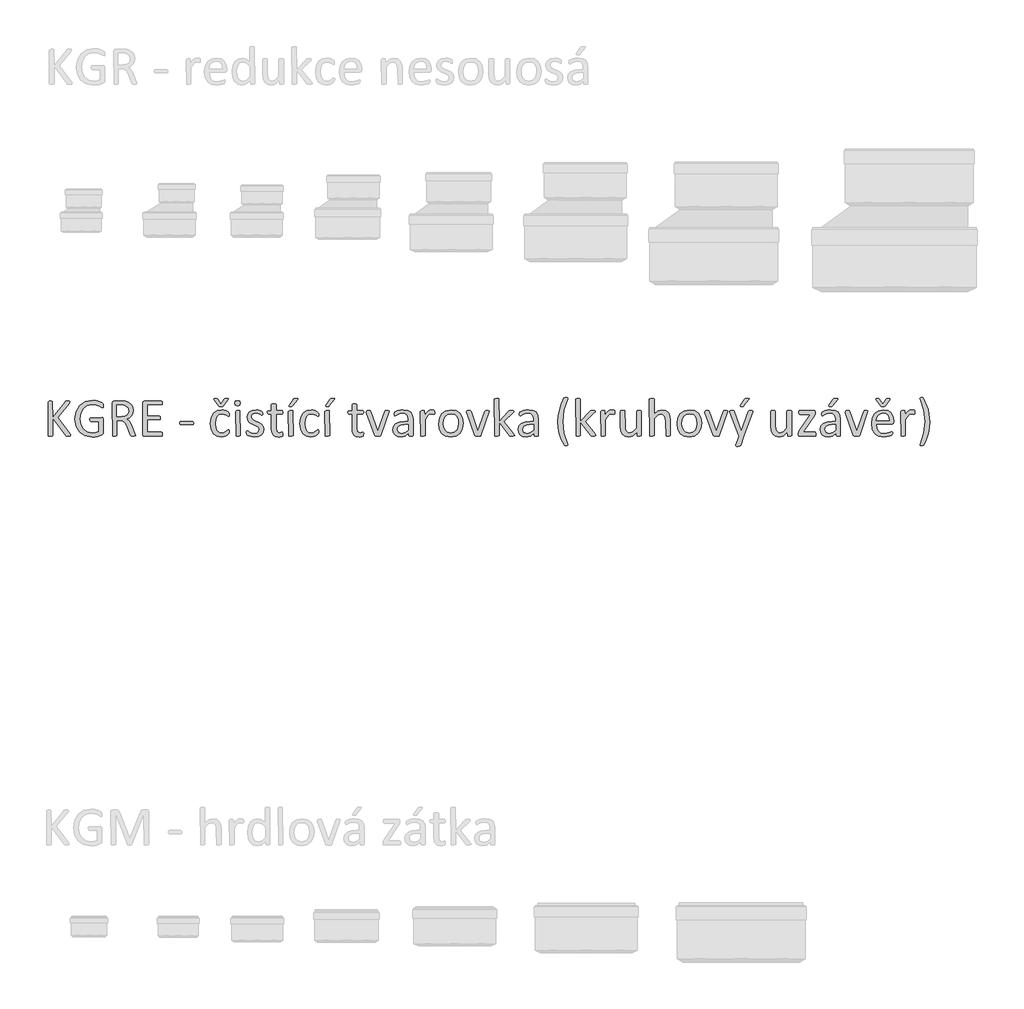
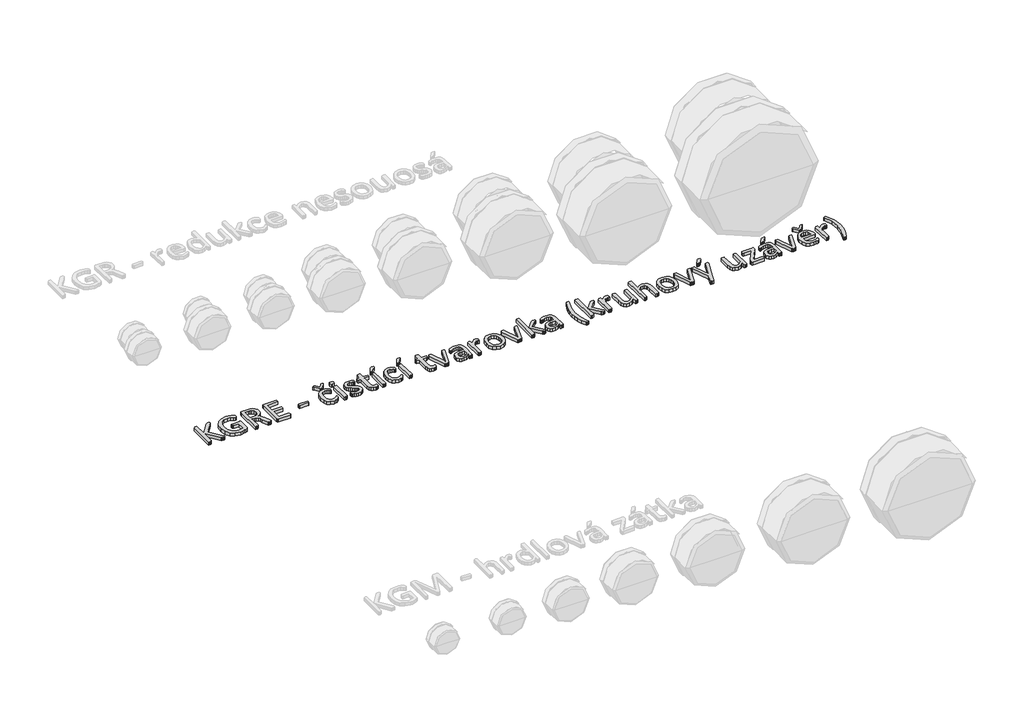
# One storey, part 7 of 11: 1 proxy.
"""IFC4 building model written with IfcOpenShell, lengths in millimetres."""

from ifc_helpers import new_model, si_unit, origin, origin_with_axes, place, context, project, spatial, polyline, outline, extrude, element, save

model = new_model("IFC4")

# Units and contexts
model_context = context("Model", 3, world=origin())
ifc_project = project(units=[si_unit("LENGTHUNIT", "METRE", prefix="MILLI")], contexts=[model_context])

# Site, building, storey
site = spatial("IfcSite", under=ifc_project)
building = spatial("IfcBuilding", under=site)
storey = spatial("IfcBuildingStorey", under=building, Name="Podlaží 1", Elevation=0.0)

# Proxy
placement = place(None, origin())
element("IfcBuildingElementProxy", 1, Name="120mm Arial", ObjectType="120mm Arial", at=placement, inside=storey, context=model_context, shape_type="SweptSolid", body=[
    extrude(outline(polyline([(-20472.3940185, 7816.0800864), (-20473.8234835, 7813.0583059), (-20476.3386182, 7812.4611876), (-20480.4098794, 7812.2259591), (-20485.6934717, 7812.4973765), (-20488.7514412, 7813.5106682), (-20490.4342292, 7815.1934562), (-20534.5486061, 7874.8329091), (-20534.5486061, 7815.1934562), (-20536.2494886, 7813.0221169), (-20538.7465288, 7812.4611876), (-20542.6549395, 7812.2259591), (-20546.5271613, 7812.4611876), (-20549.0603905, 7813.0221169), (-20550.3812885, 7813.9449361), (-20550.3812885, 7929.6954156), (-20546.5271613, 7932.4276842), (-20542.6549395, 7932.6629127), (-20538.7465288, 7932.4276842), (-20536.2494886, 7931.8667549), (-20534.5486061, 7876.6785475), (-20492.0989227, 7929.6954156), (-20490.7780246, 7931.0886917), (-20488.9866697, 7931.9753219), (-20486.399157, 7932.4819677), (-20482.4364628, 7932.6629127), (-20478.564241, 7932.4276842), (-20476.1938622, 7931.8305659), (-20475.2529486, 7927.3069424), (-20477.5509493, 7923.9775554), (-20517.3226476, 7876.6785475), (-20474.4748853, 7820.0789696), (-20472.3940185, 7816.0800864)])), origin_with_axes(), (0.0, 0.0, 1.0), 15.0),
    extrude(outline(polyline([(-20360.8414616, 7916.8845137), (-20361.0224065, 7913.6094102), (-20361.5833359, 7911.2390315), (-20362.5242496, 7909.9000389), (-20367.4278575, 7911.3114095), (-20374.4123323, 7915.2921982), (-20384.8709499, 7919.2729869), (-20399.3103563, 7921.0824364), (-20417.1696221, 7917.409254), (-20430.5595478, 7907.2401483), (-20438.9734876, 7891.8055447), (-20441.9047957, 7872.4082469), (-20438.7020702, 7851.6719565), (-20429.8176736, 7836.4182979), (-20416.2648974, 7827.0091609), (-20399.0208444, 7823.8064354), (-20387.693691, 7825.1273335), (-20377.0541284, 7829.0538388), (-20377.0541284, 7863.1800549), (-20404.0873028, 7863.1800549), (-20406.403398, 7864.8628428), (-20407.1633668, 7870.0921516), (-20406.9824219, 7873.2767826), (-20406.3853036, 7875.4481219), (-20366.4145658, 7877.0766264), (-20364.406077, 7876.7147365), (-20362.578533, 7875.6109724), (-20361.293824, 7873.5662945), (-20360.8414616, 7870.5987975), (-20360.8414616, 7825.0006721), (-20361.6738083, 7820.8208439), (-20365.2022347, 7817.7266854), (-20372.1505205, 7814.8134718), (-20380.9444447, 7812.1354867), (-20390.1183533, 7810.4707932), (-20399.2741673, 7809.9098639), (-20424.1179079, 7814.2887315), (-20442.610481, 7826.755838), (-20454.1366738, 7846.1169468), (-20458.1174625, 7871.3225773), (-20453.8290674, 7897.5595939), (-20441.7238508, 7917.590199), (-20422.9598603, 7930.4191954), (-20398.7313325, 7934.9790079), (-20385.8842416, 7933.8028658), (-20375.20849, 7931.0525027), (-20367.3554795, 7927.6145488), (-20362.9766119, 7924.5746737), (-20361.3119185, 7921.7157436), (-20360.8414616, 7916.8845137)])), origin_with_axes(), (0.0, 0.0, 1.0), 15.0),
    extrude(outline(polyline([(-20251.2250156, 7815.1572672), (-20255.2962768, 7812.4069041), (-20259.7656169, 7812.2259591), (-20263.6921221, 7812.4069041), (-20266.1529734, 7813.0040224), (-20267.5824384, 7814.1439755), (-20268.4509741, 7815.9896139), (-20279.4886156, 7843.855135), (-20283.4874988, 7852.5766812), (-20288.3368233, 7859.4344945), (-20294.9413137, 7863.9038346), (-20304.0971277, 7865.4961501), (-20314.5195564, 7865.4961501), (-20314.5195564, 7815.1572672), (-20318.7174791, 7812.4611876), (-20322.6258898, 7812.2259591), (-20326.5343006, 7812.4611876), (-20329.0313408, 7813.0221169), (-20330.7322232, 7926.1850837), (-20328.8684903, 7931.2334476), (-20324.8696071, 7932.6629127), (-20299.7544491, 7932.6629127), (-20292.3357065, 7932.4276842), (-20286.9797362, 7931.9029439), (-20274.8745196, 7928.1031001), (-20266.0444064, 7921.4805152), (-20260.7065306, 7912.2885122), (-20258.9332702, 7900.8889808), (-20260.5074912, 7890.0322843), (-20265.0673037, 7881.5459665), (-20272.2146289, 7875.1767045), (-20281.5513879, 7870.5987975), (-20276.1592287, 7867.323694), (-20271.6536996, 7862.5829365), (-20267.7271944, 7856.2317691), (-20263.9997285, 7848.1254357), (-20253.251599, 7821.888419), (-20251.5869055, 7817.2562285), (-20251.2250156, 7815.1572672)]), holes=[polyline([(-20275.145937, 7899.1519094), (-20278.2400955, 7910.7685746), (-20288.6444297, 7917.6082935), (-20293.783266, 7918.4949237), (-20301.3105756, 7918.7663411), (-20314.5195564, 7918.7663411), (-20314.5195564, 7879.3927217), (-20299.2116143, 7879.3927217), (-20288.4996737, 7880.8764702), (-20280.9723641, 7885.0382039), (-20276.5573075, 7891.3169934), (-20275.145937, 7899.1519094)])]), origin_with_axes(), (0.0, 0.0, 1.0), 15.0),
    extrude(outline(polyline([(-20159.341174, 7819.1380559), (-20159.5221189, 7816.0619919), (-20160.1735207, 7813.8725581), (-20161.2591904, 7812.6059435), (-20220.5367534, 7812.2259591), (-20224.5899201, 7813.6735187), (-20226.5079365, 7818.7399771), (-20226.5079365, 7926.1488947), (-20224.5718256, 7931.2153531), (-20220.4643755, 7932.6629127), (-20162.561994, 7932.6629127), (-20160.1916152, 7931.0163137), (-20159.5764024, 7928.8268799), (-20159.341174, 7925.5698709), (-20159.5764024, 7922.5119014), (-20160.1916152, 7920.3586566), (-20210.2952697, 7918.7663411), (-20210.2952697, 7881.7088169), (-20169.4740907, 7881.7088169), (-20167.0856175, 7880.0079345), (-20166.4704047, 7877.8185007), (-20166.2894598, 7874.5072082), (-20166.4704047, 7871.4130497), (-20167.0856175, 7869.3140884), (-20210.2952697, 7867.8122454), (-20210.2952697, 7826.1225307), (-20162.5981829, 7826.1225307), (-20160.1735207, 7824.5302152), (-20159.5221189, 7822.3769704), (-20159.341174, 7819.1380559)])), origin_with_axes(), (0.0, 0.0, 1.0), 15.0),
    extrude(outline(polyline([(-20052.800792, 7857.4260057), (-20053.6512333, 7852.8661931), (-20056.130179, 7851.5995786), (-20095.7209323, 7851.5995786), (-20098.272256, 7852.9023821), (-20099.1226972, 7857.4260057), (-20098.272256, 7861.9134403), (-20095.7209323, 7863.1800549), (-20056.130179, 7863.1800549), (-20053.0360204, 7860.1401798), (-20052.800792, 7857.4260057)])), origin_with_axes(), (0.0, 0.0, 1.0), 15.0),
    extrude(outline(polyline([(-19947.4184577, 7939.2493085), (-19946.2604101, 7940.5340176), (-19942.9672121, 7941.8006322), (-19940.072093, 7941.9272937), (-19936.2903437, 7941.6196873), (-19934.4808943, 7940.7330571), (-19935.8379814, 7936.9332133), (-19950.7840336, 7916.4502458), (-19951.9601757, 7915.2921982), (-19953.5524912, 7914.6227019), (-19955.8685865, 7914.260812), (-19959.2160679, 7914.1341506), (-19962.3645099, 7914.260812), (-19964.5901327, 7914.6588909), (-19966.1281647, 7915.3826707), (-19982.1598866, 7936.9332133), (-19983.5531626, 7939.1588361), (-19981.6532408, 7941.6196873), (-19977.889586, 7941.9272937), (-19974.777333, 7941.8006322), (-19972.8955056, 7941.3482699), (-19970.5794103, 7939.2493085), (-19958.998934, 7923.0728307), (-19947.4184577, 7939.2493085)])), origin_with_axes(), (0.0, 0.0, 1.0), 15.0),
    extrude(outline(polyline([(-19930.0477432, 7828.8728938), (-19930.1382157, 7826.3396646), (-19930.4639166, 7824.5302152), (-19932.454311, 7820.8932219), (-19936.3446272, 7817.3647955), (-19942.5148498, 7813.6192352), (-19949.9516869, 7810.94125), (-19958.2751542, 7809.9098639), (-19973.9811752, 7812.9135499), (-19985.43499, 7821.6893796), (-19992.4737483, 7835.8392741), (-19994.8984105, 7855.1822884), (-19991.9309135, 7876.6242641), (-19983.8064856, 7891.2988989), (-19971.6650799, 7899.7852167), (-19956.5380828, 7902.5536743), (-19948.9022062, 7901.739422), (-19942.0986764, 7899.6042717), (-19936.5617612, 7896.5643967), (-19933.0514293, 7893.6149941), (-19931.5495863, 7891.6788832), (-19930.8619955, 7890.1408512), (-19930.5001056, 7888.2409293), (-19930.4096331, 7885.5810387), (-19931.2238854, 7880.7679032), (-19933.1961852, 7879.3927217), (-19936.3265327, 7880.8402812), (-19940.7958728, 7884.0249122), (-19947.3641742, 7887.2095432), (-19956.4295158, 7888.6571027), (-19965.9517434, 7886.5581414), (-19972.949789, 7880.2612574), (-19977.251755, 7869.9654902), (-19978.6857437, 7855.8698792), (-19977.2019952, 7841.8647407), (-19972.8231276, 7831.8042019), (-19965.7119913, 7825.7787353), (-19956.0676259, 7823.8064354), (-19947.0384733, 7825.6339793), (-19940.3073215, 7829.6509571), (-19935.5122805, 7833.6136513), (-19932.4724055, 7835.3869117), (-19930.1744047, 7831.8222964), (-19930.0477432, 7828.8728938)])), origin_with_axes(), (0.0, 0.0, 1.0), 15.0),
    extrude(outline(polyline([(-19892.9902191, 7925.8231938), (-19894.9806134, 7918.4225457), (-19902.3631671, 7916.4502458), (-19909.5647758, 7918.3682622), (-19911.5189812, 7925.6060599), (-19909.5285868, 7933.006708), (-19902.1460332, 7934.9790079), (-19894.9444245, 7933.0609915), (-19892.9902191, 7925.8231938)])), origin_with_axes(), (0.0, 0.0, 1.0), 15.0),
    extrude(outline(polyline([(-19892.9902191, 7815.0487002), (-19897.1157638, 7812.4069041), (-19901.1327415, 7812.2259591), (-19905.0773412, 7812.4069041), (-19907.5743814, 7812.9497389), (-19909.2028859, 7897.4148379), (-19905.0773412, 7900.0566341), (-19901.1327415, 7900.237579), (-19897.1157638, 7900.0566341), (-19894.673007, 7899.5137992), (-19892.9902191, 7815.0487002)])), origin_with_axes(), (0.0, 0.0, 1.0), 15.0),
    extrude(outline(polyline([(-19811.926885, 7836.9792272), (-19814.3334527, 7825.4530344), (-19821.191266, 7816.9305276), (-19831.7765451, 7811.6831243), (-19845.2931323, 7809.9098639), (-19853.9603951, 7810.7422106), (-19861.3248542, 7812.8592664), (-19866.8436749, 7815.5372516), (-19870.1549674, 7818.0523863), (-19871.6749049, 7820.7122769), (-19872.1453617, 7824.9282941), (-19871.9644168, 7827.6605627), (-19871.49396, 7829.4519176), (-19866.5360685, 7829.3071617), (-19861.6143661, 7826.1225307), (-19854.6841748, 7822.9378997), (-19845.5102663, 7821.4903402), (-19838.4534135, 7822.3769704), (-19832.9707818, 7825.0006721), (-19829.3880719, 7829.4157286), (-19828.1395518, 7835.7488016), (-19829.9309067, 7841.7380792), (-19834.6897587, 7846.0626633), (-19841.3304381, 7849.3920503), (-19848.9301257, 7852.4319253), (-19856.5840967, 7856.0327296), (-19863.2790596, 7860.9544321), (-19868.0379116, 7867.8846233), (-19869.8292665, 7877.5470833), (-19867.9112501, 7887.0466927), (-19862.1572009, 7895.0082702), (-19852.567119, 7900.4909019), (-19839.1048153, 7902.5536743), (-19832.3736634, 7901.9384615), (-19826.2939134, 7900.382335), (-19821.6617229, 7898.3557516), (-19818.7666038, 7896.4377352), (-19817.4638002, 7895.0625537), (-19816.7038315, 7892.2217181), (-19816.5590755, 7889.8151503), (-19816.7038315, 7887.1914487), (-19817.1742883, 7885.3639048), (-19821.5531559, 7885.1286763), (-19825.7691731, 7887.4990551), (-19831.8489231, 7889.8694338), (-19839.8285951, 7890.973198), (-19846.9216368, 7890.0503788), (-19851.9519062, 7887.4266771), (-19854.9194032, 7883.4096994), (-19855.9326949, 7878.37943), (-19854.0146785, 7872.2453965), (-19849.0025036, 7867.8846233), (-19841.9637454, 7864.5190474), (-19833.92979, 7861.4429834), (-19825.841551, 7857.878368), (-19818.7666038, 7853.1014216), (-19813.8087124, 7846.3521752), (-19811.926885, 7836.9792272)])), origin_with_axes(), (0.0, 0.0, 1.0), 15.0),
    extrude(outline(polyline([(-19747.0762177, 7820.5494265), (-19747.4381076, 7816.0258029), (-19748.5418717, 7813.5649517), (-19750.7494, 7812.0812032), (-19754.0968815, 7810.94125), (-19758.0957647, 7810.1993758), (-19762.3117818, 7809.9098639), (-19773.3313288, 7811.6650298), (-19780.8405439, 7816.9667166), (-19785.1108446, 7825.9596802), (-19786.4498371, 7838.8248656), (-19786.4498371, 7888.6571027), (-19797.4512896, 7888.6571027), (-19799.5683454, 7890.0141898), (-19800.3464087, 7894.4111519), (-19800.1292748, 7897.1072315), (-19799.5683454, 7898.9347754), (-19786.4498371, 7900.237579), (-19786.4498371, 7920.3948456), (-19784.8213326, 7922.6023739), (-19782.3242924, 7923.2175867), (-19778.3796927, 7923.3985316), (-19774.362715, 7923.2175867), (-19771.9199583, 7922.6023739), (-19770.6352492, 7921.6071767), (-19770.2371703, 7900.237579), (-19749.9713368, 7900.237579), (-19747.2571626, 7897.1072315), (-19747.0762177, 7894.4111519), (-19747.8723754, 7890.0141898), (-19749.9713368, 7888.6571027), (-19770.2371703, 7888.6571027), (-19770.2371703, 7841.4666618), (-19767.8306026, 7828.2757755), (-19759.1995288, 7823.8064354), (-19755.5987245, 7824.2226088), (-19752.7940779, 7825.0911445), (-19750.6770221, 7825.9777747), (-19749.1028011, 7826.4120426), (-19747.2571626, 7823.4807345), (-19747.0762177, 7820.5494265)])), origin_with_axes(), (0.0, 0.0, 1.0), 15.0),
    extrude(outline(polyline([(-19712.3347888, 7815.0487002), (-19716.4603335, 7812.4069041), (-19720.4773112, 7812.2259591), (-19724.4219109, 7812.4069041), (-19726.9189511, 7812.9497389), (-19728.5474556, 7897.4148379), (-19724.4219109, 7900.0928231), (-19720.4773112, 7900.237579), (-19716.4603335, 7900.0928231), (-19714.0175768, 7899.5499882), (-19712.3347888, 7815.0487002)])), origin_with_axes(), (0.0, 0.0, 1.0), 15.0),
    extrude(outline(polyline([(-19712.3709778, 7938.6340957), (-19711.0319852, 7940.2264112), (-19709.1682523, 7941.2035139), (-19706.4359837, 7941.7463487), (-19702.5275729, 7941.9272937), (-19698.1848943, 7941.6196873), (-19695.8687991, 7940.7330571), (-19696.122122, 7937.801749), (-19713.4204585, 7916.9930807), (-19714.8137345, 7915.5636156), (-19716.2431996, 7914.7131744), (-19718.3421609, 7914.260812), (-19721.5629809, 7914.1341506), (-19724.8923678, 7914.405568), (-19726.6294392, 7915.1293478), (-19726.2313604, 7917.9701833), (-19712.3709778, 7938.6340957)])), origin_with_axes(), (0.0, 0.0, 1.0), 15.0),
    extrude(outline(polyline([(-19624.3231689, 7828.8728938), (-19624.4136414, 7826.3396646), (-19624.7393423, 7824.5302152), (-19626.7297367, 7820.8932219), (-19630.6200529, 7817.3647955), (-19636.7902754, 7813.6192352), (-19644.2271126, 7810.94125), (-19652.5505799, 7809.9098639), (-19668.2566009, 7812.9135499), (-19679.7104157, 7821.6893796), (-19686.749174, 7835.8392741), (-19689.1738362, 7855.1822884), (-19686.2063391, 7876.6242641), (-19678.0819112, 7891.2988989), (-19665.9405056, 7899.7852167), (-19650.8135085, 7902.5536743), (-19643.1776319, 7901.739422), (-19636.3741021, 7899.6042717), (-19630.8371868, 7896.5643967), (-19627.326855, 7893.6149941), (-19625.8250119, 7891.6788832), (-19625.1374212, 7890.1408512), (-19624.7755313, 7888.2409293), (-19624.6850588, 7885.5810387), (-19625.499311, 7880.7679032), (-19627.4716109, 7879.3927217), (-19630.6019584, 7880.8402812), (-19635.0712985, 7884.0249122), (-19641.6395999, 7887.2095432), (-19650.7049415, 7888.6571027), (-19660.2271691, 7886.5581414), (-19667.2252147, 7880.2612574), (-19671.5271807, 7869.9654902), (-19672.9611694, 7855.8698792), (-19671.4774209, 7841.8647407), (-19667.0985533, 7831.8042019), (-19659.987417, 7825.7787353), (-19650.3430516, 7823.8064354), (-19641.313899, 7825.6339793), (-19634.5827471, 7829.6509571), (-19629.7877062, 7833.6136513), (-19626.7478311, 7835.3869117), (-19624.4498304, 7831.8222964), (-19624.3231689, 7828.8728938)])), origin_with_axes(), (0.0, 0.0, 1.0), 15.0),
    extrude(outline(polyline([(-19587.3018337, 7938.6340957), (-19585.9628412, 7940.2264112), (-19584.0991083, 7941.2035139), (-19581.3668396, 7941.7463487), (-19577.4584289, 7941.9272937), (-19573.1157503, 7941.6196873), (-19570.799655, 7940.7330571), (-19571.0529779, 7937.801749), (-19588.3513144, 7916.9930807), (-19589.7445905, 7915.5636156), (-19591.1740555, 7914.7131744), (-19593.2730168, 7914.260812), (-19596.4938368, 7914.1341506), (-19599.8232237, 7914.405568), (-19601.5602952, 7915.1293478), (-19601.1622163, 7917.9701833), (-19587.3018337, 7938.6340957)])), origin_with_axes(), (0.0, 0.0, 1.0), 15.0),
    extrude(outline(polyline([(-19587.2656448, 7815.0487002), (-19591.3911894, 7812.4069041), (-19595.4081672, 7812.2259591), (-19599.3527669, 7812.4069041), (-19601.8498071, 7812.9497389), (-19603.4783116, 7897.4148379), (-19599.3527669, 7900.0928231), (-19595.4081672, 7900.237579), (-19591.3911894, 7900.0928231), (-19588.9484327, 7899.5499882), (-19587.2656448, 7815.0487002)])), origin_with_axes(), (0.0, 0.0, 1.0), 15.0),
    extrude(outline(polyline([(-19471.4608818, 7820.5494265), (-19471.8227716, 7816.0258029), (-19472.9265358, 7813.5649517), (-19475.1340641, 7812.0812032), (-19478.4815455, 7810.94125), (-19482.4804287, 7810.1993758), (-19486.6964459, 7809.9098639), (-19497.7159929, 7811.6650298), (-19505.225208, 7816.9667166), (-19509.4955086, 7825.9596802), (-19510.8345012, 7838.8248656), (-19510.8345012, 7888.6571027), (-19521.8359537, 7888.6571027), (-19523.9530095, 7890.0141898), (-19524.7310727, 7894.4111519), (-19524.5139388, 7897.1072315), (-19523.9530095, 7898.9347754), (-19510.8345012, 7900.237579), (-19510.8345012, 7920.3948456), (-19509.2059967, 7922.6023739), (-19506.7089565, 7923.2175867), (-19502.7643568, 7923.3985316), (-19498.747379, 7923.2175867), (-19496.3046223, 7922.6023739), (-19495.0199132, 7921.6071767), (-19494.6218344, 7900.237579), (-19474.3560008, 7900.237579), (-19471.6418267, 7897.1072315), (-19471.4608818, 7894.4111519), (-19472.2570395, 7890.0141898), (-19474.3560008, 7888.6571027), (-19494.6218344, 7888.6571027), (-19494.6218344, 7841.4666618), (-19492.2152666, 7828.2757755), (-19483.5841929, 7823.8064354), (-19479.9833885, 7824.2226088), (-19477.1787419, 7825.0911445), (-19475.0616861, 7825.9777747), (-19473.4874651, 7826.4120426), (-19471.6418267, 7823.4807345), (-19471.4608818, 7820.5494265)])), origin_with_axes(), (0.0, 0.0, 1.0), 15.0),
    extrude(outline(polyline([(-19384.4173173, 7898.6452635), (-19412.9070985, 7815.5191571), (-19413.8842012, 7813.8725581), (-19415.6936506, 7812.8773609), (-19418.7516201, 7812.3707151), (-19423.4019051, 7812.2259591), (-19428.0160011, 7812.4069041), (-19431.0377817, 7812.9497389), (-19432.8472311, 7813.9630306), (-19433.8605228, 7815.5191571), (-19462.2326897, 7893.7597501), (-19462.829808, 7895.659672), (-19459.2290037, 7900.1471065), (-19455.6462938, 7900.237579), (-19451.3398042, 7900.0928231), (-19448.842764, 7899.5861772), (-19446.7438027, 7897.3062709), (-19423.1847712, 7829.4157286), (-19399.2638498, 7897.3062709), (-19397.29155, 7899.5861772), (-19394.8668877, 7900.0928231), (-19390.8318155, 7900.237579), (-19387.3033891, 7900.1471065), (-19384.4173173, 7898.6452635)])), origin_with_axes(), (0.0, 0.0, 1.0), 15.0),
    extrude(outline(polyline([(-19302.3859278, 7815.0125112), (-19303.1820855, 7813.3297233), (-19305.3534248, 7812.4973765), (-19309.4065915, 7812.2259591), (-19313.5140417, 7812.4973765), (-19315.7396645, 7813.3297233), (-19316.4272553, 7815.0125112), (-19316.4272553, 7823.3359786), (-19328.6229444, 7813.7097077), (-19342.8814058, 7809.9098639), (-19354.8418665, 7811.6288408), (-19363.9433971, 7816.6048267), (-19369.7879187, 7824.6025932), (-19371.8687856, 7835.3869117), (-19368.991761, 7847.6549788), (-19360.7406716, 7856.304147), (-19347.5859743, 7861.4610779), (-19330.0705039, 7863.1800549), (-19318.5985946, 7863.1800549), (-19318.5985946, 7870.0921516), (-19319.6118863, 7879.1393988), (-19322.8688952, 7885.6896057), (-19328.6772279, 7889.6342054), (-19337.4530576, 7890.973198), (-19347.4955019, 7889.5256384), (-19355.2761344, 7886.3410075), (-19360.8673331, 7883.1563765), (-19364.19672, 7881.7088169), (-19367.0556501, 7885.2372433), (-19367.2365951, 7887.897134), (-19366.9108942, 7891.6969777), (-19365.3185787, 7894.3568684), (-19360.9759001, 7897.0710425), (-19353.8828583, 7899.7490277), (-19345.1070286, 7901.7575165), (-19335.4988522, 7902.5536743), (-19320.1185321, 7900.5089964), (-19309.8589539, 7894.5378133), (-19304.1591882, 7884.7848809), (-19302.3859278, 7871.1778213), (-19302.3859278, 7815.0125112)]), holes=[polyline([(-19318.5985946, 7851.5995786), (-19331.4818745, 7851.5995786), (-19342.2300041, 7850.5320034), (-19349.8115971, 7847.3835614), (-19354.2447482, 7842.389481), (-19355.6561188, 7835.6764236), (-19351.6029521, 7825.3263729), (-19340.2396097, 7821.4903402), (-19329.2381572, 7824.5483097), (-19318.5985946, 7833.9031632), (-19318.5985946, 7851.5995786)])]), origin_with_axes(), (0.0, 0.0, 1.0), 15.0),
    extrude(outline(polyline([(-19228.2708795, 7893.2892932), (-19228.3613519, 7889.9960953), (-19228.7232418, 7887.860945), (-19232.2697627, 7886.6486139), (-19234.6039524, 7887.4809606), (-19237.517166, 7888.2771183), (-19241.0094034, 7888.6571027), (-19245.42446, 7887.6619055), (-19249.966178, 7884.4048966), (-19254.9421639, 7878.3975245), (-19260.6962131, 7869.2236159), (-19260.6962131, 7815.0487002), (-19264.8217578, 7812.4069041), (-19268.8387355, 7812.2259591), (-19272.7833352, 7812.4069041), (-19275.2803754, 7812.9497389), (-19276.9088799, 7897.4148379), (-19273.1814141, 7900.0928231), (-19269.5263263, 7900.237579), (-19265.9436164, 7900.0928231), (-19263.7360881, 7899.5499882), (-19262.2523396, 7885.4000938), (-19255.9916446, 7893.976884), (-19250.4366349, 7899.2061928), (-19245.2616095, 7901.8298945), (-19240.0684897, 7902.5536743), (-19237.4266935, 7902.4270128), (-19234.3144405, 7901.9384615), (-19231.3831325, 7901.1242092), (-19229.5374941, 7900.237579), (-19228.3070684, 7896.5463022), (-19228.2708795, 7893.2892932)])), origin_with_axes(), (0.0, 0.0, 1.0), 15.0),
    extrude(outline(polyline([(-19130.9948785, 7857.1364938), (-19133.6728637, 7838.1553693), (-19141.6887246, 7823.2093171), (-19155.0424614, 7813.4201958), (-19173.6255069, 7809.9098639), (-19191.5390562, 7813.0040224), (-19204.2775801, 7821.996986), (-19211.8772677, 7836.3278254), (-19214.3743079, 7855.4356113), (-19211.7325117, 7874.4167358), (-19203.7709343, 7889.3446935), (-19190.471481, 7899.0795314), (-19171.8522465, 7902.5536743), (-19153.9206027, 7899.4595158), (-19141.1820788, 7890.4665521), (-19133.5462022, 7876.1357127), (-19130.9948785, 7857.1364938)]), holes=[polyline([(-19147.2075454, 7856.0508241), (-19148.4560655, 7868.6264976), (-19152.5635156, 7879.0127373), (-19160.2898647, 7886.06959), (-19172.4674593, 7888.6571027), (-19184.0298411, 7886.286724), (-19191.9914186, 7879.5917611), (-19196.6417036, 7869.3502774), (-19198.1616411, 7856.412714), (-19196.913121, 7843.7646626), (-19192.7694818, 7833.4146119), (-19184.9888493, 7826.3939481), (-19172.8293492, 7823.8064354), (-19161.3031564, 7826.1768142), (-19153.2872954, 7832.8174936), (-19148.6731994, 7843.0227883), (-19147.2075454, 7856.0508241)])]), origin_with_axes(), (0.0, 0.0, 1.0), 15.0),
    extrude(outline(polyline([(-19041.6352188, 7898.6452635), (-19070.125, 7815.5191571), (-19071.1021027, 7813.8725581), (-19072.9115521, 7812.8773609), (-19075.9695216, 7812.3707151), (-19080.6198066, 7812.2259591), (-19085.2339027, 7812.4069041), (-19088.2556832, 7812.9497389), (-19090.0651326, 7813.9630306), (-19091.0784243, 7815.5191571), (-19119.4505912, 7893.7597501), (-19120.0477095, 7895.659672), (-19116.4469052, 7900.1471065), (-19112.8641953, 7900.237579), (-19108.5577057, 7900.0928231), (-19106.0606655, 7899.5861772), (-19103.9617042, 7897.3062709), (-19080.4026727, 7829.4157286), (-19056.4817513, 7897.3062709), (-19054.5094515, 7899.5861772), (-19052.0847893, 7900.0928231), (-19048.049717, 7900.237579), (-19044.5212907, 7900.1471065), (-19041.6352188, 7898.6452635)])), origin_with_axes(), (0.0, 0.0, 1.0), 15.0),
    extrude(outline(polyline([(-18954.9716388, 7815.1572672), (-18959.0429, 7812.4069041), (-18963.0417832, 7812.2259591), (-18967.1673279, 7812.3707151), (-18969.917691, 7812.8230774), (-18971.7271404, 7813.7278022), (-18972.993755, 7815.1572672), (-19008.2418298, 7860.7192036), (-19008.2418298, 7815.0487002), (-19012.3673744, 7812.4069041), (-19016.3843522, 7812.2259591), (-19020.3289519, 7812.4069041), (-19022.8259921, 7812.9678334), (-19024.4544966, 7938.9597966), (-19020.3289519, 7941.7463487), (-19016.3843522, 7941.9272937), (-19012.3673744, 7941.7463487), (-19009.9246177, 7941.1854194), (-19008.6399086, 7940.2445057), (-19008.2418298, 7862.818165), (-18976.03363, 7897.052948), (-18974.4232201, 7898.554791), (-18972.3966367, 7899.5499882), (-18969.6100846, 7900.0928231), (-18965.7197683, 7900.237579), (-18961.7389796, 7900.0928231), (-18959.1514669, 7899.6404607), (-18957.7220019, 7898.8262085), (-18957.9210413, 7895.2977821), (-18960.0380972, 7892.7464584), (-18992.0291629, 7862.9267319), (-18957.2515451, 7819.4637568), (-18955.4963791, 7816.9486221), (-18954.9716388, 7815.1572672)])), origin_with_axes(), (0.0, 0.0, 1.0), 15.0),
    extrude(outline(polyline([(-18873.9083047, 7815.0125112), (-18874.7044624, 7813.3297233), (-18876.8758017, 7812.4973765), (-18880.9289684, 7812.2259591), (-18885.0364186, 7812.4973765), (-18887.2620414, 7813.3297233), (-18887.9496322, 7815.0125112), (-18887.9496322, 7823.3359786), (-18900.1453213, 7813.7097077), (-18914.4037827, 7809.9098639), (-18926.3642434, 7811.6288408), (-18935.465774, 7816.6048267), (-18941.3102956, 7824.6025932), (-18943.3911625, 7835.3869117), (-18940.5141379, 7847.6549788), (-18932.2630485, 7856.304147), (-18919.1083512, 7861.4610779), (-18901.5928808, 7863.1800549), (-18890.1209715, 7863.1800549), (-18890.1209715, 7870.0921516), (-18891.1342632, 7879.1393988), (-18894.3912721, 7885.6896057), (-18900.1996048, 7889.6342054), (-18908.9754345, 7890.973198), (-18919.0178788, 7889.5256384), (-18926.7985113, 7886.3410075), (-18932.38971, 7883.1563765), (-18935.7190969, 7881.7088169), (-18938.578027, 7885.2372433), (-18938.758972, 7887.897134), (-18938.4332711, 7891.6969777), (-18936.8409556, 7894.3568684), (-18932.498277, 7897.0710425), (-18925.4052352, 7899.7490277), (-18916.6294055, 7901.7575165), (-18907.0212291, 7902.5536743), (-18891.640909, 7900.5089964), (-18881.3813308, 7894.5378133), (-18875.6815651, 7884.7848809), (-18873.9083047, 7871.1778213), (-18873.9083047, 7815.0125112)]), holes=[polyline([(-18890.1209715, 7851.5995786), (-18903.0042514, 7851.5995786), (-18913.7523809, 7850.5320034), (-18921.333974, 7847.3835614), (-18925.7671251, 7842.389481), (-18927.1784957, 7835.6764236), (-18923.125329, 7825.3263729), (-18911.7619866, 7821.4903402), (-18900.7605341, 7824.5483097), (-18890.1209715, 7833.9031632), (-18890.1209715, 7851.5995786)])]), origin_with_axes(), (0.0, 0.0, 1.0), 15.0),
    extrude(outline(polyline([(-18773.1943499, 7940.4073562), (-18786.2947637, 7901.9746505), (-18790.6012533, 7862.3115191), (-18786.2042912, 7822.5941043), (-18773.3752948, 7783.9985482), (-18772.8505545, 7782.0805318), (-18775.4380671, 7780.0358539), (-18779.129344, 7779.8006255), (-18781.988274, 7779.891098), (-18784.0691409, 7780.2710823), (-18795.1610658, 7801.0073727), (-18801.5484223, 7820.8208439), (-18805.4387386, 7841.1952444), (-18806.7415421, 7862.0220072), (-18805.3120771, 7882.8125811), (-18801.2227214, 7903.1869816), (-18794.762987, 7923.0909252), (-18786.2585747, 7942.4701285), (-18782.5311089, 7944.098633), (-18779.2017219, 7944.243389), (-18775.763768, 7943.9719715), (-18773.7190902, 7943.2300973), (-18773.1943499, 7940.4073562)])), origin_with_axes(), (0.0, 0.0, 1.0), 15.0),
    extrude(outline(polyline([(-18677.0402076, 7815.1572672), (-18681.1114688, 7812.4069041), (-18685.110352, 7812.2259591), (-18689.2358967, 7812.3707151), (-18691.9862598, 7812.8230774), (-18693.7957092, 7813.7278022), (-18695.0623238, 7815.1572672), (-18730.3103986, 7860.7192036), (-18730.3103986, 7815.0487002), (-18734.4359432, 7812.4069041), (-18738.452921, 7812.2259591), (-18742.3975207, 7812.4069041), (-18744.8945609, 7812.9678334), (-18746.5230654, 7938.9597966), (-18742.3975207, 7941.7463487), (-18738.452921, 7941.9272937), (-18734.4359432, 7941.7463487), (-18731.9931865, 7941.1854194), (-18730.7084774, 7940.2445057), (-18730.3103986, 7862.818165), (-18698.1021988, 7897.052948), (-18696.4917889, 7898.554791), (-18694.4652055, 7899.5499882), (-18691.6786534, 7900.0928231), (-18687.7883371, 7900.237579), (-18683.8075484, 7900.0928231), (-18681.2200357, 7899.6404607), (-18679.7905707, 7898.8262085), (-18679.9896101, 7895.2977821), (-18682.106666, 7892.7464584), (-18714.0977317, 7862.9267319), (-18679.3201138, 7819.4637568), (-18677.5649479, 7816.9486221), (-18677.0402076, 7815.1572672)])), origin_with_axes(), (0.0, 0.0, 1.0), 15.0),
    extrude(outline(polyline([(-18612.1895403, 7893.2892932), (-18612.2800128, 7889.9960953), (-18612.6419027, 7887.860945), (-18616.1884235, 7886.6486139), (-18618.5226133, 7887.4809606), (-18621.4358268, 7888.2771183), (-18624.9280642, 7888.6571027), (-18629.3431208, 7887.6619055), (-18633.8848389, 7884.4048966), (-18638.8608248, 7878.3975245), (-18644.6148739, 7869.2236159), (-18644.6148739, 7815.0487002), (-18648.7404186, 7812.4069041), (-18652.7573963, 7812.2259591), (-18656.7019961, 7812.4069041), (-18659.1990363, 7812.9497389), (-18660.8275408, 7897.4148379), (-18657.1000749, 7900.0928231), (-18653.4449871, 7900.237579), (-18649.8622773, 7900.0928231), (-18647.654749, 7899.5499882), (-18646.1710004, 7885.4000938), (-18639.9103054, 7893.976884), (-18634.3552957, 7899.2061928), (-18629.1802704, 7901.8298945), (-18623.9871505, 7902.5536743), (-18621.3453544, 7902.4270128), (-18618.2331014, 7901.9384615), (-18615.3017933, 7901.1242092), (-18613.4561549, 7900.237579), (-18612.2257293, 7896.5463022), (-18612.1895403, 7893.2892932)])), origin_with_axes(), (0.0, 0.0, 1.0), 15.0),
    extrude(outline(polyline([(-18521.8618252, 7815.0487002), (-18525.7159524, 7812.4069041), (-18529.1720008, 7812.2259591), (-18532.8632776, 7812.4069041), (-18535.1069949, 7812.9497389), (-18536.5183655, 7825.9415857), (-18550.3968425, 7813.7458966), (-18564.2753196, 7809.9098639), (-18578.0995132, 7812.696416), (-18587.1829493, 7820.2418201), (-18592.1589352, 7831.3518395), (-18593.6607782, 7846.7864431), (-18593.6607782, 7897.3786489), (-18591.9960847, 7899.5318937), (-18589.4628556, 7900.0928231), (-18585.5544448, 7900.237579), (-18581.6460341, 7900.0928231), (-18579.1670883, 7899.5499882), (-18577.8461903, 7898.6452635), (-18577.4481114, 7849.3196723), (-18576.4348197, 7837.7211015), (-18573.3225667, 7830.2842644), (-18568.0389744, 7825.5073179), (-18560.5840428, 7823.8064354), (-18549.6368738, 7827.8776966), (-18538.074492, 7839.8381573), (-18538.074492, 7897.4148379), (-18536.4097985, 7899.5499882), (-18533.9127583, 7900.0928231), (-18529.9681586, 7900.237579), (-18526.0597478, 7900.0928231), (-18523.6169911, 7899.5499882), (-18522.296093, 7898.6452635), (-18521.8618252, 7815.0487002)])), origin_with_axes(), (0.0, 0.0, 1.0), 15.0),
    extrude(outline(polyline([(-18422.269729, 7815.0848892), (-18426.3952737, 7812.4069041), (-18430.3398734, 7812.2259591), (-18434.3568511, 7812.4069041), (-18436.7996078, 7812.9497389), (-18438.4823958, 7863.4333778), (-18439.549971, 7874.7967201), (-18442.6441295, 7882.2335573), (-18447.9096273, 7887.0105037), (-18455.3826534, 7888.6571027), (-18466.3660114, 7884.6220305), (-18477.8560152, 7872.7701368), (-18477.8560152, 7815.0848892), (-18481.9815599, 7812.4069041), (-18485.9985376, 7812.2259591), (-18489.9431374, 7812.4069041), (-18492.4401776, 7812.9678334), (-18494.068682, 7938.9597966), (-18489.9431374, 7941.7463487), (-18485.9985376, 7941.9272937), (-18481.9815599, 7941.7463487), (-18479.5388032, 7941.1854194), (-18478.2540941, 7940.2445057), (-18477.8560152, 7888.8742366), (-18464.8279794, 7899.1880983), (-18451.6189986, 7902.5536743), (-18437.794805, 7899.7309332), (-18428.7294634, 7892.1855291), (-18423.771572, 7881.1297931), (-18422.269729, 7865.821851), (-18422.269729, 7815.0848892)])), origin_with_axes(), (0.0, 0.0, 1.0), 15.0),
    extrude(outline(polyline([(-18315.729347, 7857.1364938), (-18318.4073322, 7838.1553693), (-18326.4231931, 7823.2093171), (-18339.7769298, 7813.4201958), (-18358.3599754, 7809.9098639), (-18376.2735247, 7813.0040224), (-18389.0120486, 7821.996986), (-18396.6117362, 7836.3278254), (-18399.1087764, 7855.4356113), (-18396.4669802, 7874.4167358), (-18388.5054028, 7889.3446935), (-18375.2059495, 7899.0795314), (-18356.586715, 7902.5536743), (-18338.6550712, 7899.4595158), (-18325.9165473, 7890.4665521), (-18318.2806707, 7876.1357127), (-18315.729347, 7857.1364938)]), holes=[polyline([(-18331.9420138, 7856.0508241), (-18333.1905339, 7868.6264976), (-18337.2979841, 7879.0127373), (-18345.0243332, 7886.06959), (-18357.2019278, 7888.6571027), (-18368.7643096, 7886.286724), (-18376.725887, 7879.5917611), (-18381.376172, 7869.3502774), (-18382.8961096, 7856.412714), (-18381.6475895, 7843.7646626), (-18377.5039503, 7833.4146119), (-18369.7233178, 7826.3939481), (-18357.5638177, 7823.8064354), (-18346.0376248, 7826.1768142), (-18338.0217639, 7832.8174936), (-18333.4076679, 7843.0227883), (-18331.9420138, 7856.0508241)])]), origin_with_axes(), (0.0, 0.0, 1.0), 15.0),
    extrude(outline(polyline([(-18226.3696873, 7898.6452635), (-18254.8594685, 7815.5191571), (-18255.8365712, 7813.8725581), (-18257.6460206, 7812.8773609), (-18260.7039901, 7812.3707151), (-18265.3542751, 7812.2259591), (-18269.9683711, 7812.4069041), (-18272.9901517, 7812.9497389), (-18274.7996011, 7813.9630306), (-18275.8128928, 7815.5191571), (-18304.1850597, 7893.7597501), (-18304.782178, 7895.659672), (-18301.1813737, 7900.1471065), (-18297.5986638, 7900.237579), (-18293.2921742, 7900.0928231), (-18290.795134, 7899.5861772), (-18288.6961727, 7897.3062709), (-18265.1371412, 7829.4157286), (-18241.2162198, 7897.3062709), (-18239.24392, 7899.5861772), (-18236.8192577, 7900.0928231), (-18232.7841855, 7900.237579), (-18229.2557591, 7900.1471065), (-18226.3696873, 7898.6452635)])), origin_with_axes(), (0.0, 0.0, 1.0), 15.0),
    extrude(outline(polyline([(-18170.8648263, 7812.2259591), (-18182.0110347, 7780.6329722), (-18184.8337758, 7778.2987825), (-18191.7458726, 7777.4845302), (-18195.6180944, 7777.7197587), (-18197.8980007, 7778.5340109), (-18198.7846309, 7780.0720429), (-18198.3322685, 7782.3700437), (-18186.8241702, 7812.2259591), (-18188.3983912, 7813.4201958), (-18189.4297774, 7815.1572672), (-18219.1771259, 7894.3387739), (-18219.9370946, 7897.3967434), (-18219.1952204, 7899.1338149), (-18216.7886526, 7900.0023506), (-18212.3374071, 7900.237579), (-18207.9766339, 7900.0928231), (-18205.4614992, 7899.5861772), (-18204.1044122, 7898.5366966), (-18203.253971, 7896.6548692), (-18179.4054276, 7830.1756974), (-18156.135908, 7897.016759), (-18154.7788209, 7899.2604763), (-18152.4265367, 7900.0023506), (-18147.8848186, 7900.237579), (-18143.614518, 7900.0023506), (-18141.1536668, 7899.1338149), (-18140.357509, 7897.3967434), (-18140.9365329, 7894.6282858), (-18170.8648263, 7812.2259591)])), origin_with_axes(), (0.0, 0.0, 1.0), 15.0),
    extrude(outline(polyline([(-18169.8515346, 7938.6340957), (-18168.5125421, 7940.2264112), (-18166.6488091, 7941.2035139), (-18163.9165405, 7941.7463487), (-18160.0081298, 7941.9272937), (-18155.6654512, 7941.6196873), (-18153.3493559, 7940.7330571), (-18153.6026788, 7937.801749), (-18170.9010153, 7916.9930807), (-18172.2942913, 7915.5636156), (-18173.7237564, 7914.7131744), (-18175.8227177, 7914.260812), (-18179.0435377, 7914.1341506), (-18182.3729246, 7914.405568), (-18184.1099961, 7915.1293478), (-18183.7119172, 7917.9701833), (-18169.8515346, 7938.6340957)])), origin_with_axes(), (0.0, 0.0, 1.0), 15.0),
    extrude(outline(polyline([(-18007.6886774, 7815.0487002), (-18011.5428047, 7812.4069041), (-18014.9988531, 7812.2259591), (-18018.6901299, 7812.4069041), (-18020.9338472, 7812.9497389), (-18022.3452178, 7825.9415857), (-18036.2236948, 7813.7458966), (-18050.1021719, 7809.9098639), (-18063.9263655, 7812.696416), (-18073.0098016, 7820.2418201), (-18077.9857875, 7831.3518395), (-18079.4876305, 7846.7864431), (-18079.4876305, 7897.3786489), (-18077.822937, 7899.5318937), (-18075.2897078, 7900.0928231), (-18071.3812971, 7900.237579), (-18067.4728863, 7900.0928231), (-18064.9939406, 7899.5499882), (-18063.6730425, 7898.6452635), (-18063.2749637, 7849.3196723), (-18062.261672, 7837.7211015), (-18059.149419, 7830.2842644), (-18053.8658267, 7825.5073179), (-18046.4108951, 7823.8064354), (-18035.4637261, 7827.8776966), (-18023.9013443, 7839.8381573), (-18023.9013443, 7897.4148379), (-18022.2366508, 7899.5499882), (-18019.7396106, 7900.0928231), (-18015.7950108, 7900.237579), (-18011.8866001, 7900.0928231), (-18009.4438434, 7899.5499882), (-18008.1229453, 7898.6452635), (-18007.6886774, 7815.0487002)])), origin_with_axes(), (0.0, 0.0, 1.0), 15.0),
    extrude(outline(polyline([(-17924.3092481, 7819.2104339), (-17924.59876, 7815.9715194), (-17925.2682563, 7813.7639911), (-17980.0041013, 7812.2259591), (-17983.2611102, 7813.6011407), (-17984.5277248, 7818.1971422), (-17984.5277248, 7821.5265292), (-17984.3467799, 7823.9873804), (-17983.7858506, 7826.1406252), (-17982.7363699, 7828.438626), (-17981.1259599, 7831.2251781), (-17943.6703569, 7886.3410075), (-17980.0041013, 7886.3410075), (-17982.410669, 7887.9876064), (-17983.2972992, 7893.3254822), (-17983.1163543, 7896.4920187), (-17982.5011415, 7898.699547), (-17981.4516608, 7899.8937836), (-17931.2937228, 7900.237579), (-17929.4480844, 7899.9480671), (-17928.0909974, 7898.9709644), (-17927.1862727, 7897.197704), (-17926.8424773, 7894.4473409), (-17926.8424773, 7891.3350879), (-17927.0415167, 7888.7837642), (-17927.6205405, 7886.4857634), (-17928.6519267, 7884.0791957), (-17930.2442422, 7881.2383601), (-17967.5550893, 7826.1225307), (-17927.711013, 7826.1225307), (-17924.59876, 7822.4674429), (-17924.3092481, 7819.2104339)])), origin_with_axes(), (0.0, 0.0, 1.0), 15.0),
    extrude(outline(polyline([(-17840.9298187, 7815.0125112), (-17841.7259765, 7813.3297233), (-17843.8973158, 7812.4973765), (-17847.9504825, 7812.2259591), (-17852.0579327, 7812.4973765), (-17854.2835554, 7813.3297233), (-17854.9711462, 7815.0125112), (-17854.9711462, 7823.3359786), (-17867.1668353, 7813.7097077), (-17881.4252968, 7809.9098639), (-17893.3857575, 7811.6288408), (-17902.487288, 7816.6048267), (-17908.3318097, 7824.6025932), (-17910.4126765, 7835.3869117), (-17907.5356519, 7847.6549788), (-17899.2845626, 7856.304147), (-17886.1298653, 7861.4610779), (-17868.6143949, 7863.1800549), (-17857.1424855, 7863.1800549), (-17857.1424855, 7870.0921516), (-17858.1557772, 7879.1393988), (-17861.4127862, 7885.6896057), (-17867.2211188, 7889.6342054), (-17875.9969485, 7890.973198), (-17886.0393928, 7889.5256384), (-17893.8200253, 7886.3410075), (-17899.411224, 7883.1563765), (-17902.740611, 7881.7088169), (-17905.5995411, 7885.2372433), (-17905.780486, 7887.897134), (-17905.4547851, 7891.6969777), (-17903.8624696, 7894.3568684), (-17899.519791, 7897.0710425), (-17892.4267493, 7899.7490277), (-17883.6509196, 7901.7575165), (-17874.0427431, 7902.5536743), (-17858.662423, 7900.5089964), (-17848.4028448, 7894.5378133), (-17842.7030791, 7884.7848809), (-17840.9298187, 7871.1778213), (-17840.9298187, 7815.0125112)]), holes=[polyline([(-17857.1424855, 7851.5995786), (-17870.0257654, 7851.5995786), (-17880.773895, 7850.5320034), (-17888.3554881, 7847.3835614), (-17892.7886391, 7842.389481), (-17894.2000097, 7835.6764236), (-17890.146843, 7825.3263729), (-17878.7835006, 7821.4903402), (-17867.7820481, 7824.5483097), (-17857.1424855, 7833.9031632), (-17857.1424855, 7851.5995786)])]), origin_with_axes(), (0.0, 0.0, 1.0), 15.0),
    extrude(outline(polyline([(-17866.4430556, 7938.6340957), (-17865.104063, 7940.2264112), (-17863.2403301, 7941.2035139), (-17860.5080615, 7941.7463487), (-17856.5996507, 7941.9272937), (-17852.2569721, 7941.6196873), (-17849.9408768, 7940.7330571), (-17850.1941998, 7937.801749), (-17867.4925362, 7916.9930807), (-17868.8858123, 7915.5636156), (-17870.3152773, 7914.7131744), (-17872.4142387, 7914.260812), (-17875.6350586, 7914.1341506), (-17878.9644456, 7914.405568), (-17880.701517, 7915.1293478), (-17880.3034381, 7917.9701833), (-17866.4430556, 7938.6340957)])), origin_with_axes(), (0.0, 0.0, 1.0), 15.0),
    extrude(outline(polyline([(-17746.9379685, 7898.6452635), (-17775.4277496, 7815.5191571), (-17776.4048523, 7813.8725581), (-17778.2143018, 7812.8773609), (-17781.2722713, 7812.3707151), (-17785.9225563, 7812.2259591), (-17790.5366523, 7812.4069041), (-17793.5584328, 7812.9497389), (-17795.3678823, 7813.9630306), (-17796.3811739, 7815.5191571), (-17824.7533409, 7893.7597501), (-17825.3504592, 7895.659672), (-17821.7496548, 7900.1471065), (-17818.166945, 7900.237579), (-17813.8604554, 7900.0928231), (-17811.3634152, 7899.5861772), (-17809.2644538, 7897.3062709), (-17785.7054224, 7829.4157286), (-17761.784501, 7897.3062709), (-17759.8122011, 7899.5861772), (-17757.3875389, 7900.0928231), (-17753.3524667, 7900.237579), (-17749.8240403, 7900.1471065), (-17746.9379685, 7898.6452635)])), origin_with_axes(), (0.0, 0.0, 1.0), 15.0),
    extrude(outline(polyline([(-17657.9582932, 7860.5382587), (-17659.7496481, 7855.4356113), (-17663.8570983, 7853.9156738), (-17718.1767699, 7853.9156738), (-17716.8196829, 7840.5257481), (-17712.3141538, 7830.3204534), (-17704.0992534, 7823.7702464), (-17691.7226194, 7821.4903402), (-17681.4449467, 7822.5579153), (-17673.6281252, 7824.9644831), (-17668.2178714, 7827.3710508), (-17665.0151459, 7828.438626), (-17662.7171452, 7825.5435069), (-17662.5904837, 7822.9017107), (-17662.6809562, 7820.9655998), (-17667.1322017, 7815.5734406), (-17673.4833692, 7813.0764004), (-17682.5306163, 7810.8869666), (-17693.4958798, 7809.9098639), (-17711.1742007, 7812.8049829), (-17723.9308191, 7821.4179622), (-17731.7476406, 7835.7668961), (-17734.3894368, 7855.7975012), (-17731.6209791, 7875.339555), (-17723.6413072, 7890.0322843), (-17711.0475392, 7899.3147598), (-17694.5091715, 7902.5536743), (-17677.8622368, 7899.4233268), (-17666.5531779, 7890.9912925), (-17660.03916, 7878.5603749), (-17657.9582932, 7863.3248108), (-17657.9582932, 7860.5382587)]), holes=[polyline([(-17674.17096, 7865.4961501), (-17675.3425785, 7876.1221418), (-17679.3640798, 7884.1877626), (-17686.1359443, 7889.2768391), (-17695.5586522, 7890.973198), (-17705.2030176, 7888.8742366), (-17712.1332089, 7883.2830379), (-17716.457793, 7875.15861), (-17718.1767699, 7865.4961501), (-17674.17096, 7865.4961501)])]), origin_with_axes(), (0.0, 0.0, 1.0), 15.0),
    extrude(outline(polyline([(-17684.5933887, 7939.2493085), (-17683.435341, 7940.5340176), (-17680.1421431, 7941.8006322), (-17677.247024, 7941.9272937), (-17673.4652747, 7941.6196873), (-17671.6558253, 7940.7330571), (-17673.0129124, 7936.9332133), (-17687.9589646, 7916.4502458), (-17689.1351067, 7915.2921982), (-17690.7274222, 7914.6227019), (-17693.0435175, 7914.260812), (-17696.3909989, 7914.1341506), (-17699.5394409, 7914.260812), (-17701.7650637, 7914.6588909), (-17703.3030957, 7915.3826707), (-17719.3348176, 7936.9332133), (-17720.7280936, 7939.1588361), (-17718.8281717, 7941.6196873), (-17715.0645169, 7941.9272937), (-17711.9522639, 7941.8006322), (-17710.0704365, 7941.3482699), (-17707.7543413, 7939.2493085), (-17696.173865, 7923.0728307), (-17684.5933887, 7939.2493085)])), origin_with_axes(), (0.0, 0.0, 1.0), 15.0),
    extrude(outline(polyline([(-17586.1593401, 7893.2892932), (-17586.2498126, 7889.9960953), (-17586.6117025, 7887.860945), (-17590.1582233, 7886.6486139), (-17592.4924131, 7887.4809606), (-17595.4056267, 7888.2771183), (-17598.897864, 7888.6571027), (-17603.3129206, 7887.6619055), (-17607.8546387, 7884.4048966), (-17612.8306246, 7878.3975245), (-17618.5846738, 7869.2236159), (-17618.5846738, 7815.0487002), (-17622.7102184, 7812.4069041), (-17626.7271962, 7812.2259591), (-17630.6717959, 7812.4069041), (-17633.1688361, 7812.9497389), (-17634.7973406, 7897.4148379), (-17631.0698748, 7900.0928231), (-17627.4147869, 7900.237579), (-17623.8320771, 7900.0928231), (-17621.6245488, 7899.5499882), (-17620.1408003, 7885.4000938), (-17613.8801053, 7893.976884), (-17608.3250955, 7899.2061928), (-17603.1500702, 7901.8298945), (-17597.9569503, 7902.5536743), (-17595.3151542, 7902.4270128), (-17592.2029012, 7901.9384615), (-17589.2715931, 7901.1242092), (-17587.4259547, 7900.237579), (-17586.1955291, 7896.5463022), (-17586.1593401, 7893.2892932)])), origin_with_axes(), (0.0, 0.0, 1.0), 15.0),
    extrude(outline(polyline([(-17535.2052444, 7862.0220072), (-17536.508048, 7841.1952444), (-17540.3983642, 7820.8208439), (-17546.7495317, 7801.0073727), (-17555.5072669, 7781.7548309), (-17559.86804, 7779.891098), (-17562.7450646, 7779.8006255), (-17566.5087194, 7780.0358539), (-17568.4448303, 7780.7777282), (-17568.4991138, 7783.9985482), (-17555.5977394, 7822.5398208), (-17551.2369663, 7862.3115191), (-17555.5977394, 7901.9746505), (-17568.6800587, 7940.4073562), (-17568.9514761, 7942.0177662), (-17566.0744515, 7943.9719715), (-17562.6726866, 7944.243389), (-17559.4156777, 7944.098633), (-17557.3167163, 7943.6824596), (-17540.6335927, 7903.1869816), (-17535.2052444, 7862.0220072)])), origin_with_axes(), (0.0, 0.0, 1.0), 15.0),
])

save(model, "model.ifc")
